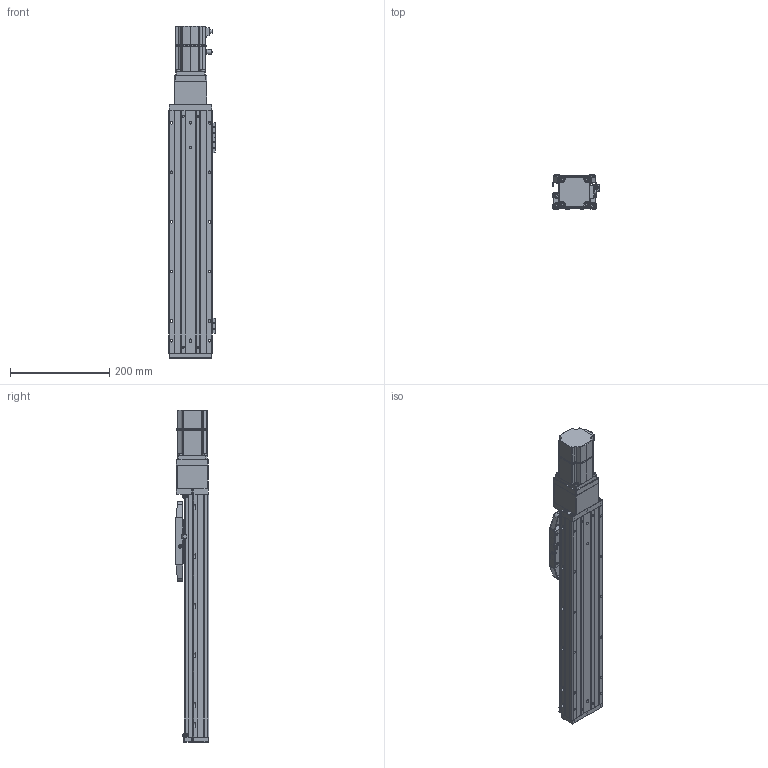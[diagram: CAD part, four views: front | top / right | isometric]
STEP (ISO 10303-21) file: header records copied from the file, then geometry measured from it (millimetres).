
FILE_DESCRIPTION (( 'STEP AP203' ), '1' );
FILE_NAME ('CTHA86-300-BC-M20-C4L.step', '2022-04-26T00:46:33', ( '微软用户' ), ( '微软中国' ), 'SwSTEP 2.0', 'SolidWorks 2020', '' );
FILE_SCHEMA (( 'CONFIG_CONTROL_DESIGN' ));
Length unit declared in the file: millimetre
Products named in the file (22): EE_SX911P_R; GBT 70.1-M3℅6; CTHA86-006-1_CTHA86-006-2; CTHA60-017; _X2_4E0983F1_X0_200W_1; CTHA60-021; GBT 70.3-M3℅6; KTHA86-001_490; GBT77-2000 M3×3; CTHA86-002; KTHA86-004; GBT 70.1-M3×20; CTHA60-016; CTHA86-031; KTHA86-005; GBT70.1 M5℅16; CTHA86-013; CTHA86-030; GB¨uT 70.2-M3¡Á5_M3¡Á6; GBT 70.1-M3×16; CTHA86-027; CTHA86-300-BC-M20-C4L
Assembly tree (65 placements, depth 2):
  CTHA86-300-BC-M20-C4L
    KTHA86-001_490
    KTHA86-004
    KTHA86-005
    GB¨uT 70.2-M3¡Á5_M3¡Á6  x10
    EE_SX911P_R  x3
    CTHA60-017  x3
    CTHA60-021  x2
    GBT77-2000 M3×3  x6
    GBT 70.1-M3×20
    GBT70.1 M5℅16  x14
    GBT 70.1-M3×16
    GBT 70.1-M3℅6  x6
    CTHA60-016  x2
    CTHA86-013
    CTHA86-027
    CTHA86-006-1_CTHA86-006-2
    _X2_4E0983F1_X0_200W_1
    GBT 70.3-M3℅6  x6
    CTHA86-002
    CTHA86-031
    CTHA86-030  x2
Bounding box: 93.82 x 68 x 670.5 mm (x, y, z)
Volume: 2341114.5 mm3; surface area: 434544.5 mm2
Topology: 67 solids, 67 shells, 2674 faces, 6359 edges, 3904 vertices
Faces by surface type: plane 1392, cylinder 685, cone 384, torus 120, bspline 69, sphere 24
Entity records: 46337 total; most frequent: CARTESIAN_POINT 8624, DIRECTION 7268, ORIENTED_EDGE 6974, EDGE_CURVE 3487, AXIS2_PLACEMENT_3D 2484, LINE 2300, VECTOR 2300, VERTEX_POINT 2182
